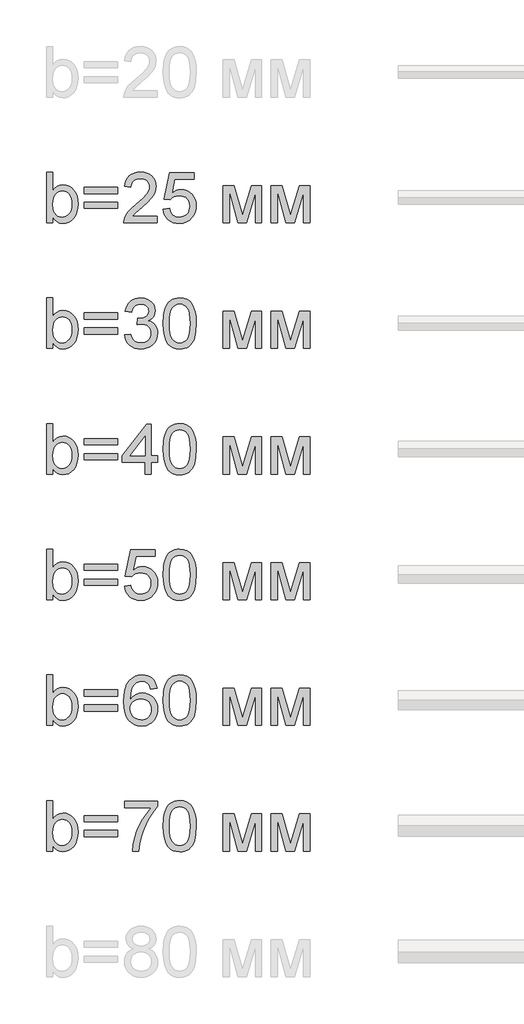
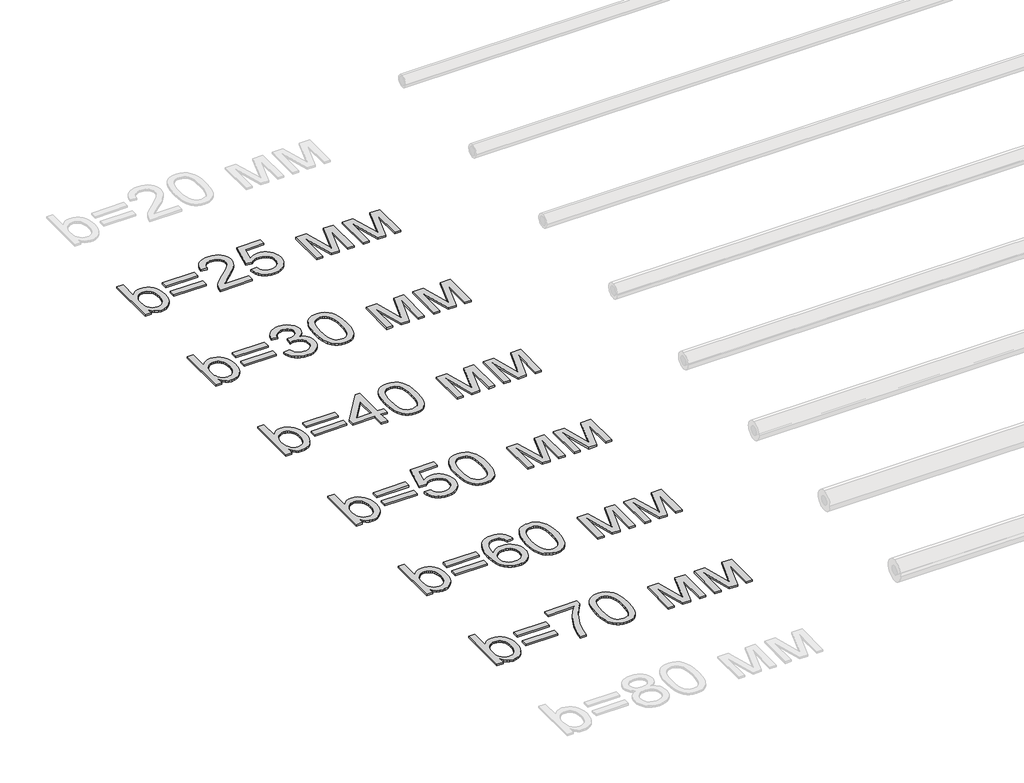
# One storey, part 73 of 86: 6 proxies.
"""IFC4 building model written with IfcOpenShell, lengths in millimetres."""

from ifc_helpers import new_model, si_unit, origin, origin_with_axes, place, context, project, spatial, polyline, outline, extrude, element, save

model = new_model("IFC4")

# Units and contexts
model_context = context("Model", 3, world=origin())
ifc_project = project(units=[si_unit("LENGTHUNIT", "METRE", prefix="MILLI")], contexts=[model_context])

# Site, building, storey
site = spatial("IfcSite", under=ifc_project)
building = spatial("IfcBuilding", under=site)
storey = spatial("IfcBuildingStorey", under=building, Name="Уровень 1", Elevation=0.0)

# Proxies
placement = place(None, origin())
element("IfcBuildingElementProxy", 1, Name="Текст модели 1", ObjectType="Текст модели 1", at=placement, inside=storey, context=model_context, shape_type="SweptSolid", body=[
    extrude(outline(polyline([(23159.6307988, 87669.2937088), (23084.2885662, 87669.2937088), (23084.2885662, 88272.0315697), (23159.6307988, 88272.0315697), (23159.6307988, 88048.5064694), (23184.4076512, 88080.3742473), (23212.3850769, 88103.1369457), (23243.563076, 88116.7945648), (23277.9416484, 88121.3471045), (23316.7531989, 88117.2452202), (23353.4310339, 88104.9395675), (23385.8782258, 88085.2026984), (23411.9978475, 88058.8071653), (23432.4704805, 88026.0104854), (23447.9767066, 87987.0701762), (23457.7439736, 87943.6049185), (23460.9997292, 87897.233393), (23457.6290105, 87843.7249568), (23447.5168541, 87796.6544555), (23430.6632602, 87756.0218892), (23407.0682288, 87721.8272577), (23378.7459136, 87694.7235517), (23347.7104688, 87675.3637617), (23313.9618943, 87663.7478877), (23277.50019, 87659.8759297), (23241.9903805, 87664.8699278), (23210.5088787, 87679.8519221), (23183.0556848, 87704.8219125), (23159.6307988, 87739.7798991), (23159.6307988, 87669.2937088)]), holes=[polyline([(23159.6307988, 87893.7017259), (23164.7811467, 87830.8674811), (23171.2190816, 87807.065516), (23180.2321905, 87788.3403224), (23198.4883345, 87765.0993774), (23219.7059286, 87748.4987024), (23243.8849727, 87738.5382973), (23271.0254669, 87735.2181623), (23293.5582391, 87737.6645776), (23314.5091188, 87745.0038234), (23333.8781058, 87757.2358997), (23351.6652003, 87774.3608066), (23366.5368299, 87796.3325588), (23377.1594225, 87823.105171), (23383.5329781, 87854.6786432), (23385.6574966, 87891.0529755), (23383.6203501, 87928.1170865), (23377.5089104, 87959.9940614), (23367.3231777, 87986.6839001), (23353.0631519, 88008.1866028), (23335.9152524, 88024.7320955), (23317.0658986, 88036.5503046), (23296.5150907, 88043.64123), (23274.2628285, 88046.0048719), (23251.7300563, 88043.5584566), (23230.7791767, 88036.2192108), (23211.4101896, 88023.9871344), (23193.6230951, 88006.8622276), (23178.7514655, 87985.1112046), (23168.1288729, 87959.00078), (23161.7553173, 87928.5309538), (23159.6307988, 87893.7017259)])]), origin_with_axes(), (0.0, 0.0, 1.0), 20.0),
    extrude(outline(polyline([(23931.8886831, 88017.7515346), (23536.3419619, 88017.7515346), (23536.3419619, 88093.0937672), (23931.8886831, 88093.0937672), (23931.8886831, 88017.7515346)])), origin_with_axes(), (0.0, 0.0, 1.0), 20.0),
    extrude(outline(polyline([(23931.8886831, 87838.8137322), (23536.3419619, 87838.8137322), (23536.3419619, 87914.1559648), (23931.8886831, 87914.1559648), (23931.8886831, 87838.8137322)])), origin_with_axes(), (0.0, 0.0, 1.0), 20.0),
    extrude(outline(polyline([(24402.7776369, 87744.6359414), (24402.7776369, 87669.2937088), (24007.2309157, 87669.2937088), (24008.8863847, 87695.8180007), (24015.3243196, 87721.2386465), (24033.9023603, 87761.8344247), (24061.0888398, 87801.2161923), (24100.4154251, 87842.4373698), (24155.4137833, 87888.5513779), (24236.7157043, 87960.7666136), (24285.4968568, 88014.0727147), (24299.724693, 88035.8513288), (24309.8874331, 88057.3356373), (24315.9850772, 88078.5256402), (24318.0176252, 88099.4213376), (24316.1000403, 88119.0800317), (24310.3472856, 88137.1476362), (24300.7593611, 88153.624151), (24287.3362668, 88168.5095763), (24270.8229638, 88180.8382216), (24251.964413, 88189.6443969), (24230.7606145, 88194.928102), (24207.2115683, 88196.6893371), (24182.4025262, 88194.9694888), (24160.2146434, 88189.8099438), (24140.6479198, 88181.2107021), (24123.7023554, 88169.1717638), (24109.9941525, 88154.0977991), (24100.1395136, 88136.3934781), (24094.1384385, 88116.0588008), (24091.9909274, 88093.0937672), (24016.6486948, 88102.5115463), (24023.1280164, 88141.4058703), (24034.9140358, 88175.3889696), (24052.006753, 88204.4608442), (24074.406168, 88228.6214943), (24101.597246, 88247.6134023), (24133.0649521, 88261.1790508), (24168.8092865, 88269.31844), (24208.830249, 88272.0315697), (24249.2098965, 88269.0149373), (24285.1473689, 88259.9650403), (24316.6426663, 88244.8818785), (24343.6957885, 88223.7654519), (24365.4238188, 88198.1792592), (24380.9438405, 88169.6867986), (24390.2558535, 88138.2880704), (24393.3598578, 88103.9830743), (24390.0121317, 88067.9490329), (24379.9689532, 88032.5403908), (24362.1450705, 87996.5247435), (24335.4552318, 87958.6696862), (24292.909679, 87913.4753831), (24227.5186544, 87855.4419984), (24140.8456563, 87782.9692453), (24106.85336, 87744.6359414), (24402.7776369, 87744.6359414)])), origin_with_axes(), (0.0, 0.0, 1.0), 20.0),
    extrude(outline(polyline([(24478.1198695, 87829.3959531), (24553.4621021, 87838.8137322), (24559.0906966, 87814.5933013), (24567.2944651, 87793.5826409), (24578.0734076, 87775.7817508), (24591.427524, 87761.1906312), (24607.3292233, 87749.8276761), (24625.7509142, 87741.7112795), (24646.6925967, 87736.8414416), (24670.154271, 87735.2181623), (24698.8490666, 87737.4760381), (24724.1593479, 87744.2496653), (24746.0851148, 87755.539044), (24764.6263674, 87771.3441743), (24779.3692383, 87790.8833067), (24789.8998604, 87813.3746922), (24796.2182337, 87838.8183307), (24798.3243581, 87867.2142222), (24796.3515909, 87894.0512138), (24790.4332893, 87917.9083611), (24780.5694533, 87938.7856644), (24766.7600829, 87956.6831234), (24748.9591929, 87971.0397183), (24727.1207979, 87981.2944289), (24701.2448981, 87987.4472553), (24671.3314934, 87989.4981974), (24634.7824172, 87986.2240476), (24605.1863106, 87976.4015984), (24581.5498925, 87961.3552248), (24562.8798812, 87942.409302), (24487.5376486, 87951.8270811), (24553.4621021, 88262.6137906), (24845.4132535, 88262.6137906), (24845.4132535, 88187.271558), (24614.3833605, 88187.271558), (24582.1568977, 88021.2832018), (24608.7455689, 88040.3394891), (24635.9780336, 88053.951123), (24663.8542918, 88062.1181032), (24692.3743435, 88064.84043), (24729.065974, 88061.4651127), (24762.7685633, 88051.3391608), (24793.4821113, 88034.4625743), (24821.2066182, 88010.8353531), (24844.1578562, 87981.9014342), (24860.5515976, 87949.1047543), (24870.3878424, 87912.4453135), (24873.6665907, 87871.9231117), (24870.7143377, 87832.8908321), (24861.8575787, 87796.5808791), (24847.0963136, 87762.993253), (24826.4305425, 87732.1279536), (24795.1237848, 87700.5176931), (24758.5931026, 87677.9389357), (24716.8384962, 87664.3916812), (24669.8599654, 87659.8759297), (24630.979437, 87662.777599), (24595.8605021, 87671.4826067), (24564.5031605, 87685.9909529), (24536.9074123, 87706.3026375), (24513.9469773, 87731.4059852), (24496.4955752, 87760.2893203), (24484.5532059, 87792.952643), (24478.1198695, 87829.3959531)])), origin_with_axes(), (0.0, 0.0, 1.0), 20.0),
    extrude(outline(polyline([(25193.8710793, 88111.9293254), (25323.5126944, 88111.9293254), (25423.4294443, 87757.5853876), (25531.1452925, 88111.9293254), (25655.3422541, 88111.9293254), (25655.3422541, 87669.2937088), (25580.0000215, 87669.2937088), (25580.0000215, 88025.6977857), (25471.6955621, 87669.2937088), (25372.8088818, 87669.2937088), (25269.2133119, 88042.7675103), (25269.2133119, 87669.2937088), (25193.8710793, 87669.2937088), (25193.8710793, 88111.9293254)])), origin_with_axes(), (0.0, 0.0, 1.0), 20.0),
    extrude(outline(polyline([(25768.355603, 88111.9293254), (25897.9972181, 88111.9293254), (25997.913968, 87757.5853876), (26105.6298162, 88111.9293254), (26229.8267777, 88111.9293254), (26229.8267777, 87669.2937088), (26154.4845451, 87669.2937088), (26154.4845451, 88025.6977857), (26046.1800857, 87669.2937088), (25947.2934054, 87669.2937088), (25843.6978356, 88042.7675103), (25843.6978356, 87669.2937088), (25768.355603, 87669.2937088), (25768.355603, 88111.9293254)])), origin_with_axes(), (0.0, 0.0, 1.0), 20.0),
])
element("IfcBuildingElementProxy", 2, Name="Текст модели 1", ObjectType="Текст модели 1", at=placement, inside=storey, context=model_context, shape_type="SweptSolid", body=[
    extrude(outline(polyline([(23159.6307988, 86169.2937088), (23084.2885662, 86169.2937088), (23084.2885662, 86772.0315697), (23159.6307988, 86772.0315697), (23159.6307988, 86548.5064694), (23184.4076512, 86580.3742473), (23212.3850769, 86603.1369457), (23243.563076, 86616.7945648), (23277.9416484, 86621.3471045), (23316.7531989, 86617.2452202), (23353.4310339, 86604.9395675), (23385.8782258, 86585.2026984), (23411.9978475, 86558.8071653), (23432.4704805, 86526.0104854), (23447.9767066, 86487.0701762), (23457.7439736, 86443.6049185), (23460.9997292, 86397.233393), (23457.6290105, 86343.7249568), (23447.5168541, 86296.6544555), (23430.6632602, 86256.0218892), (23407.0682288, 86221.8272577), (23378.7459136, 86194.7235517), (23347.7104688, 86175.3637617), (23313.9618943, 86163.7478877), (23277.50019, 86159.8759297), (23241.9903805, 86164.8699278), (23210.5088787, 86179.8519221), (23183.0556848, 86204.8219125), (23159.6307988, 86239.7798991), (23159.6307988, 86169.2937088)]), holes=[polyline([(23159.6307988, 86393.7017259), (23164.7811467, 86330.8674811), (23171.2190816, 86307.065516), (23180.2321905, 86288.3403224), (23198.4883345, 86265.0993774), (23219.7059286, 86248.4987024), (23243.8849727, 86238.5382973), (23271.0254669, 86235.2181623), (23293.5582391, 86237.6645776), (23314.5091188, 86245.0038234), (23333.8781058, 86257.2358997), (23351.6652003, 86274.3608066), (23366.5368299, 86296.3325588), (23377.1594225, 86323.105171), (23383.5329781, 86354.6786432), (23385.6574966, 86391.0529755), (23383.6203501, 86428.1170865), (23377.5089104, 86459.9940614), (23367.3231777, 86486.6839001), (23353.0631519, 86508.1866028), (23335.9152524, 86524.7320955), (23317.0658986, 86536.5503046), (23296.5150907, 86543.64123), (23274.2628285, 86546.0048719), (23251.7300563, 86543.5584566), (23230.7791767, 86536.2192108), (23211.4101896, 86523.9871344), (23193.6230951, 86506.8622276), (23178.7514655, 86485.1112046), (23168.1288729, 86459.00078), (23161.7553173, 86428.5309538), (23159.6307988, 86393.7017259)])]), origin_with_axes(), (0.0, 0.0, 1.0), 20.0),
    extrude(outline(polyline([(23931.8886831, 86517.7515346), (23536.3419619, 86517.7515346), (23536.3419619, 86593.0937672), (23931.8886831, 86593.0937672), (23931.8886831, 86517.7515346)])), origin_with_axes(), (0.0, 0.0, 1.0), 20.0),
    extrude(outline(polyline([(23931.8886831, 86338.8137322), (23536.3419619, 86338.8137322), (23536.3419619, 86414.1559648), (23931.8886831, 86414.1559648), (23931.8886831, 86338.8137322)])), origin_with_axes(), (0.0, 0.0, 1.0), 20.0),
    extrude(outline(polyline([(24016.6486948, 86329.3959531), (24091.9909274, 86338.8137322), (24108.8583168, 86291.4673194), (24120.230469, 86273.5606633), (24133.5615928, 86259.498374), (24149.1551909, 86248.8757814), (24167.3147659, 86241.2882153), (24188.0403178, 86236.7356756), (24211.3318466, 86235.2181623), (24238.6286906, 86237.3058927), (24262.9824787, 86243.5690836), (24284.3932108, 86254.0077352), (24302.860887, 86268.6218475), (24317.7325167, 86286.3169715), (24328.3551093, 86305.9986582), (24334.7286648, 86327.6669077), (24336.8531834, 86351.32172), (24334.7470589, 86373.8498937), (24328.4286857, 86394.3455193), (24317.8980636, 86412.808597), (24303.1551926, 86429.2391266), (24285.165763, 86442.7266002), (24264.8954651, 86452.36051), (24242.3442988, 86458.1408558), (24217.5122641, 86460.0676378), (24193.710299, 86458.0074986), (24164.6844096, 86451.8270811), (24173.0721191, 86527.1693137), (24185.1386485, 86526.2863969), (24230.2777694, 86531.6942622), (24270.6344242, 86547.9178582), (24287.2442963, 86560.1867228), (24299.1084907, 86575.3618551), (24306.2270073, 86593.4432551), (24308.5998461, 86614.430923), (24306.8799978, 86631.4684579), (24301.7204528, 86646.9700854), (24293.1212112, 86660.9358057), (24281.0822729, 86673.3656186), (24266.3302049, 86683.5697454), (24249.5915741, 86690.8584075), (24210.1546242, 86696.6893371), (24189.4980502, 86695.2178091), (24170.6440979, 86690.8032252), (24153.5927675, 86683.4455853), (24138.3440588, 86673.1448894), (24125.2750509, 86659.9011376), (24114.7628229, 86643.7143298), (24106.8073747, 86624.584466), (24101.4087064, 86602.5115463), (24026.0664738, 86611.9293254), (24034.9968093, 86647.8989875), (24048.2497581, 86679.5828243), (24065.8253205, 86706.9808359), (24087.7234962, 86730.0930222), (24113.2545067, 86748.4411368), (24141.7285731, 86761.5469328), (24173.1456955, 86769.4104105), (24207.5058739, 86772.0315697), (24254.8706807, 86766.8628277), (24298.3727267, 86751.3566016), (24335.0505616, 86726.8924489), (24361.9427354, 86694.8499271), (24378.4422429, 86657.9329689), (24383.9420787, 86618.8455069), (24378.7181544, 86582.4251894), (24363.0463814, 86549.3893862), (24337.147489, 86521.2464136), (24301.2422062, 86499.5045877), (24326.3501524, 86491.6503071), (24348.404678, 86480.4483003), (24367.4057831, 86465.8985674), (24383.3534676, 86448.0011083), (24395.97182, 86427.1973815), (24404.9849289, 86403.9288453), (24410.3927942, 86378.1954998), (24412.195416, 86349.9973448), (24408.5901724, 86311.7744055), (24397.7744418, 86276.5680986), (24379.748224, 86244.378424), (24354.5115191, 86215.2053818), (24323.7657814, 86190.9987465), (24289.212465, 86173.7082927), (24250.8515699, 86163.3340205), (24208.6830962, 86159.8759297), (24170.5705215, 86162.8281827), (24135.8424612, 86171.6849418), (24104.4989152, 86186.4462068), (24076.5398836, 86207.1119779), (24053.0966034, 86232.4682444), (24035.3003119, 86261.3009958), (24023.151009, 86293.610232), (24016.6486948, 86329.3959531)])), origin_with_axes(), (0.0, 0.0, 1.0), 20.0),
    extrude(outline(polyline([(24478.1198695, 86465.8065969), (24483.6564935, 86562.2836501), (24490.5772736, 86603.1967265), (24500.2663656, 86639.2261694), (24512.682383, 86670.6662845), (24527.7839389, 86697.8113772), (24545.5710333, 86720.6614476), (24566.0436664, 86739.2164957), (24589.2708158, 86753.5730906), (24615.3214596, 86763.8278012), (24644.1955977, 86769.9806276), (24675.8932301, 86772.0315697), (24722.3199379, 86767.1755274), (24763.8906034, 86752.6074004), (24798.6554519, 86728.8974058), (24824.664709, 86696.6157607), (24844.3096075, 86656.0383766), (24859.9813805, 86607.4411651), (24870.2452882, 86545.7289604), (24873.6665907, 86465.8065969), (24868.185149, 86369.8813667), (24861.3333468, 86329.106246), (24851.7408238, 86293.1227884), (24839.4213755, 86261.6688778), (24824.3887975, 86234.4823983), (24806.6430897, 86211.56335), (24786.1842523, 86192.9117329), (24762.9295116, 86178.458569), (24736.7960944, 86168.1348805), (24707.7840006, 86161.9406674), (24675.8932301, 86159.8759297), (24634.3961411, 86163.4627792), (24597.6079415, 86174.2233275), (24565.5286316, 86192.1575748), (24538.1582111, 86217.265521), (24511.8914367, 86262.6529621), (24493.1294549, 86319.2056218), (24481.8722659, 86386.9235001), (24478.1198695, 86465.8065969)]), holes=[polyline([(24553.4621021, 86465.9537497), (24555.6693941, 86400.456959), (24562.29127, 86347.440565), (24573.3277299, 86306.9045676), (24588.7787737, 86278.848967), (24607.467179, 86259.7604899), (24628.2157235, 86246.1258635), (24651.0244072, 86237.9450876), (24675.8932301, 86235.2181623), (24700.762053, 86237.9542847), (24723.5707367, 86246.1626517), (24744.3192812, 86259.8432634), (24763.0076866, 86278.9961198), (24778.4587304, 86307.0977057), (24789.4951902, 86347.624506), (24796.1170661, 86400.5765206), (24798.3243581, 86465.9537497), (24796.1906425, 86529.7168965), (24789.7894958, 86581.79979), (24779.120918, 86622.2024301), (24764.184909, 86650.9248169), (24745.8092033, 86670.9467945), (24724.8215355, 86685.248207), (24701.2219055, 86693.8290546), (24675.0103133, 86696.6893371), (24650.2702492, 86694.1693454), (24627.8478415, 86686.6093704), (24607.7430905, 86674.0094121), (24589.955996, 86656.3694704), (24573.9899175, 86625.0995008), (24562.5855756, 86582.9402242), (24555.7429705, 86529.8916405), (24553.4621021, 86465.9537497)])]), origin_with_axes(), (0.0, 0.0, 1.0), 20.0),
    extrude(outline(polyline([(25193.8710793, 86611.9293254), (25323.5126944, 86611.9293254), (25423.4294443, 86257.5853876), (25531.1452925, 86611.9293254), (25655.3422541, 86611.9293254), (25655.3422541, 86169.2937088), (25580.0000215, 86169.2937088), (25580.0000215, 86525.6977857), (25471.6955621, 86169.2937088), (25372.8088818, 86169.2937088), (25269.2133119, 86542.7675103), (25269.2133119, 86169.2937088), (25193.8710793, 86169.2937088), (25193.8710793, 86611.9293254)])), origin_with_axes(), (0.0, 0.0, 1.0), 20.0),
    extrude(outline(polyline([(25768.355603, 86611.9293254), (25897.9972181, 86611.9293254), (25997.913968, 86257.5853876), (26105.6298162, 86611.9293254), (26229.8267777, 86611.9293254), (26229.8267777, 86169.2937088), (26154.4845451, 86169.2937088), (26154.4845451, 86525.6977857), (26046.1800857, 86169.2937088), (25947.2934054, 86169.2937088), (25843.6978356, 86542.7675103), (25843.6978356, 86169.2937088), (25768.355603, 86169.2937088), (25768.355603, 86611.9293254)])), origin_with_axes(), (0.0, 0.0, 1.0), 20.0),
])
element("IfcBuildingElementProxy", 3, Name="Текст модели 1", ObjectType="Текст модели 1", at=placement, inside=storey, context=model_context, shape_type="SweptSolid", body=[
    extrude(outline(polyline([(23159.6307988, 84669.2937088), (23084.2885662, 84669.2937088), (23084.2885662, 85272.0315697), (23159.6307988, 85272.0315697), (23159.6307988, 85048.5064694), (23184.4076512, 85080.3742473), (23212.3850769, 85103.1369457), (23243.563076, 85116.7945648), (23277.9416484, 85121.3471045), (23316.7531989, 85117.2452202), (23353.4310339, 85104.9395675), (23385.8782258, 85085.2026984), (23411.9978475, 85058.8071653), (23432.4704805, 85026.0104854), (23447.9767066, 84987.0701762), (23457.7439736, 84943.6049185), (23460.9997292, 84897.233393), (23457.6290105, 84843.7249568), (23447.5168541, 84796.6544555), (23430.6632602, 84756.0218892), (23407.0682288, 84721.8272577), (23378.7459136, 84694.7235517), (23347.7104688, 84675.3637617), (23313.9618943, 84663.7478877), (23277.50019, 84659.8759297), (23241.9903805, 84664.8699278), (23210.5088787, 84679.8519221), (23183.0556848, 84704.8219125), (23159.6307988, 84739.7798991), (23159.6307988, 84669.2937088)]), holes=[polyline([(23159.6307988, 84893.7017259), (23164.7811467, 84830.8674811), (23171.2190816, 84807.065516), (23180.2321905, 84788.3403224), (23198.4883345, 84765.0993774), (23219.7059286, 84748.4987024), (23243.8849727, 84738.5382973), (23271.0254669, 84735.2181623), (23293.5582391, 84737.6645776), (23314.5091188, 84745.0038234), (23333.8781058, 84757.2358997), (23351.6652003, 84774.3608066), (23366.5368299, 84796.3325588), (23377.1594225, 84823.105171), (23383.5329781, 84854.6786432), (23385.6574966, 84891.0529755), (23383.6203501, 84928.1170865), (23377.5089104, 84959.9940614), (23367.3231777, 84986.6839001), (23353.0631519, 85008.1866028), (23335.9152524, 85024.7320955), (23317.0658986, 85036.5503046), (23296.5150907, 85043.64123), (23274.2628285, 85046.0048719), (23251.7300563, 85043.5584566), (23230.7791767, 85036.2192108), (23211.4101896, 85023.9871344), (23193.6230951, 85006.8622276), (23178.7514655, 84985.1112046), (23168.1288729, 84959.00078), (23161.7553173, 84928.5309538), (23159.6307988, 84893.7017259)])]), origin_with_axes(), (0.0, 0.0, 1.0), 20.0),
    extrude(outline(polyline([(23931.8886831, 85017.7515346), (23536.3419619, 85017.7515346), (23536.3419619, 85093.0937672), (23931.8886831, 85093.0937672), (23931.8886831, 85017.7515346)])), origin_with_axes(), (0.0, 0.0, 1.0), 20.0),
    extrude(outline(polyline([(23931.8886831, 84838.8137322), (23536.3419619, 84838.8137322), (23536.3419619, 84914.1559648), (23931.8886831, 84914.1559648), (23931.8886831, 84838.8137322)])), origin_with_axes(), (0.0, 0.0, 1.0), 20.0),
    extrude(outline(polyline([(24261.5109507, 84669.2937088), (24261.5109507, 84810.5603949), (23988.3953575, 84810.5603949), (23988.3953575, 84885.9026276), (24280.3465089, 85262.6137906), (24336.8531834, 85262.6137906), (24336.8531834, 84885.9026276), (24412.195416, 84885.9026276), (24412.195416, 84810.5603949), (24336.8531834, 84810.5603949), (24336.8531834, 84669.2937088), (24261.5109507, 84669.2937088)]), holes=[polyline([(24261.5109507, 84885.9026276), (24261.5109507, 85118.6983541), (24081.1016203, 84885.9026276), (24261.5109507, 84885.9026276)])]), origin_with_axes(), (0.0, 0.0, 1.0), 20.0),
    extrude(outline(polyline([(24478.1198695, 84965.8065969), (24483.6564935, 85062.2836501), (24490.5772736, 85103.1967265), (24500.2663656, 85139.2261694), (24512.682383, 85170.6662845), (24527.7839389, 85197.8113772), (24545.5710333, 85220.6614476), (24566.0436664, 85239.2164957), (24589.2708158, 85253.5730906), (24615.3214596, 85263.8278012), (24644.1955977, 85269.9806276), (24675.8932301, 85272.0315697), (24722.3199379, 85267.1755274), (24763.8906034, 85252.6074004), (24798.6554519, 85228.8974058), (24824.664709, 85196.6157607), (24844.3096075, 85156.0383766), (24859.9813805, 85107.4411651), (24870.2452882, 85045.7289604), (24873.6665907, 84965.8065969), (24868.185149, 84869.8813667), (24861.3333468, 84829.106246), (24851.7408238, 84793.1227884), (24839.4213755, 84761.6688778), (24824.3887975, 84734.4823983), (24806.6430897, 84711.56335), (24786.1842523, 84692.9117329), (24762.9295116, 84678.458569), (24736.7960944, 84668.1348805), (24707.7840006, 84661.9406674), (24675.8932301, 84659.8759297), (24634.3961411, 84663.4627792), (24597.6079415, 84674.2233275), (24565.5286316, 84692.1575748), (24538.1582111, 84717.265521), (24511.8914367, 84762.6529621), (24493.1294549, 84819.2056218), (24481.8722659, 84886.9235001), (24478.1198695, 84965.8065969)]), holes=[polyline([(24553.4621021, 84965.9537497), (24555.6693941, 84900.456959), (24562.29127, 84847.440565), (24573.3277299, 84806.9045676), (24588.7787737, 84778.848967), (24607.467179, 84759.7604899), (24628.2157235, 84746.1258635), (24651.0244072, 84737.9450876), (24675.8932301, 84735.2181623), (24700.762053, 84737.9542847), (24723.5707367, 84746.1626517), (24744.3192812, 84759.8432634), (24763.0076866, 84778.9961198), (24778.4587304, 84807.0977057), (24789.4951902, 84847.624506), (24796.1170661, 84900.5765206), (24798.3243581, 84965.9537497), (24796.1906425, 85029.7168965), (24789.7894958, 85081.79979), (24779.120918, 85122.2024301), (24764.184909, 85150.9248169), (24745.8092033, 85170.9467945), (24724.8215355, 85185.248207), (24701.2219055, 85193.8290546), (24675.0103133, 85196.6893371), (24650.2702492, 85194.1693454), (24627.8478415, 85186.6093704), (24607.7430905, 85174.0094121), (24589.955996, 85156.3694704), (24573.9899175, 85125.0995008), (24562.5855756, 85082.9402242), (24555.7429705, 85029.8916405), (24553.4621021, 84965.9537497)])]), origin_with_axes(), (0.0, 0.0, 1.0), 20.0),
    extrude(outline(polyline([(25193.8710793, 85111.9293254), (25323.5126944, 85111.9293254), (25423.4294443, 84757.5853876), (25531.1452925, 85111.9293254), (25655.3422541, 85111.9293254), (25655.3422541, 84669.2937088), (25580.0000215, 84669.2937088), (25580.0000215, 85025.6977857), (25471.6955621, 84669.2937088), (25372.8088818, 84669.2937088), (25269.2133119, 85042.7675103), (25269.2133119, 84669.2937088), (25193.8710793, 84669.2937088), (25193.8710793, 85111.9293254)])), origin_with_axes(), (0.0, 0.0, 1.0), 20.0),
    extrude(outline(polyline([(25768.355603, 85111.9293254), (25897.9972181, 85111.9293254), (25997.913968, 84757.5853876), (26105.6298162, 85111.9293254), (26229.8267777, 85111.9293254), (26229.8267777, 84669.2937088), (26154.4845451, 84669.2937088), (26154.4845451, 85025.6977857), (26046.1800857, 84669.2937088), (25947.2934054, 84669.2937088), (25843.6978356, 85042.7675103), (25843.6978356, 84669.2937088), (25768.355603, 84669.2937088), (25768.355603, 85111.9293254)])), origin_with_axes(), (0.0, 0.0, 1.0), 20.0),
])
element("IfcBuildingElementProxy", 4, Name="Текст модели 1", ObjectType="Текст модели 1", at=placement, inside=storey, context=model_context, shape_type="SweptSolid", body=[
    extrude(outline(polyline([(23159.6307988, 83169.2937088), (23084.2885662, 83169.2937088), (23084.2885662, 83772.0315697), (23159.6307988, 83772.0315697), (23159.6307988, 83548.5064694), (23184.4076512, 83580.3742473), (23212.3850769, 83603.1369457), (23243.563076, 83616.7945648), (23277.9416484, 83621.3471045), (23316.7531989, 83617.2452202), (23353.4310339, 83604.9395675), (23385.8782258, 83585.2026984), (23411.9978475, 83558.8071653), (23432.4704805, 83526.0104854), (23447.9767066, 83487.0701762), (23457.7439736, 83443.6049185), (23460.9997292, 83397.233393), (23457.6290105, 83343.7249568), (23447.5168541, 83296.6544555), (23430.6632602, 83256.0218892), (23407.0682288, 83221.8272577), (23378.7459136, 83194.7235517), (23347.7104688, 83175.3637617), (23313.9618943, 83163.7478877), (23277.50019, 83159.8759297), (23241.9903805, 83164.8699278), (23210.5088787, 83179.8519221), (23183.0556848, 83204.8219125), (23159.6307988, 83239.7798991), (23159.6307988, 83169.2937088)]), holes=[polyline([(23159.6307988, 83393.7017259), (23164.7811467, 83330.8674811), (23171.2190816, 83307.065516), (23180.2321905, 83288.3403224), (23198.4883345, 83265.0993774), (23219.7059286, 83248.4987024), (23243.8849727, 83238.5382973), (23271.0254669, 83235.2181623), (23293.5582391, 83237.6645776), (23314.5091188, 83245.0038234), (23333.8781058, 83257.2358997), (23351.6652003, 83274.3608066), (23366.5368299, 83296.3325588), (23377.1594225, 83323.105171), (23383.5329781, 83354.6786432), (23385.6574966, 83391.0529755), (23383.6203501, 83428.1170865), (23377.5089104, 83459.9940614), (23367.3231777, 83486.6839001), (23353.0631519, 83508.1866028), (23335.9152524, 83524.7320955), (23317.0658986, 83536.5503046), (23296.5150907, 83543.64123), (23274.2628285, 83546.0048719), (23251.7300563, 83543.5584566), (23230.7791767, 83536.2192108), (23211.4101896, 83523.9871344), (23193.6230951, 83506.8622276), (23178.7514655, 83485.1112046), (23168.1288729, 83459.00078), (23161.7553173, 83428.5309538), (23159.6307988, 83393.7017259)])]), origin_with_axes(), (0.0, 0.0, 1.0), 20.0),
    extrude(outline(polyline([(23931.8886831, 83517.7515346), (23536.3419619, 83517.7515346), (23536.3419619, 83593.0937672), (23931.8886831, 83593.0937672), (23931.8886831, 83517.7515346)])), origin_with_axes(), (0.0, 0.0, 1.0), 20.0),
    extrude(outline(polyline([(23931.8886831, 83338.8137322), (23536.3419619, 83338.8137322), (23536.3419619, 83414.1559648), (23931.8886831, 83414.1559648), (23931.8886831, 83338.8137322)])), origin_with_axes(), (0.0, 0.0, 1.0), 20.0),
    extrude(outline(polyline([(24016.6486948, 83329.3959531), (24091.9909274, 83338.8137322), (24097.6195219, 83314.5933013), (24105.8232904, 83293.5826409), (24116.6022328, 83275.7817508), (24129.9563493, 83261.1906312), (24145.8580485, 83249.8276761), (24164.2797394, 83241.7112795), (24185.221422, 83236.8414416), (24208.6830962, 83235.2181623), (24237.3778919, 83237.4760381), (24262.6881731, 83244.2496653), (24284.61394, 83255.539044), (24303.1551926, 83271.3441743), (24317.8980636, 83290.8833067), (24328.4286857, 83313.3746922), (24334.7470589, 83338.8183307), (24336.8531834, 83367.2142222), (24334.8804162, 83394.0512138), (24328.9621146, 83417.9083611), (24319.0982786, 83438.7856644), (24305.2889082, 83456.6831234), (24287.4880181, 83471.0397183), (24265.6496232, 83481.2944289), (24239.7737234, 83487.4472553), (24209.8603186, 83489.4981974), (24173.3112424, 83486.2240476), (24143.7151359, 83476.4015984), (24120.0787177, 83461.3552248), (24101.4087064, 83442.409302), (24026.0664738, 83451.8270811), (24091.9909274, 83762.6137906), (24383.9420787, 83762.6137906), (24383.9420787, 83687.271558), (24152.9121858, 83687.271558), (24120.685723, 83521.2832018), (24147.2743942, 83540.3394891), (24174.5068589, 83553.951123), (24202.3831171, 83562.1181032), (24230.9031687, 83564.84043), (24267.5947992, 83561.4651127), (24301.2973885, 83551.3391608), (24332.0109366, 83534.4625743), (24359.7354435, 83510.8353531), (24382.6866814, 83481.9014342), (24399.0804228, 83449.1047543), (24408.9166677, 83412.4453135), (24412.195416, 83371.9231117), (24409.243163, 83332.8908321), (24400.3864039, 83296.5808791), (24385.6251389, 83262.993253), (24364.9593678, 83232.1279536), (24333.65261, 83200.5176931), (24297.1219279, 83177.9389357), (24255.3673214, 83164.3916812), (24208.3887906, 83159.8759297), (24169.5082623, 83162.777599), (24134.3893273, 83171.4826067), (24103.0319858, 83185.9909529), (24075.4362376, 83206.3026375), (24052.4758026, 83231.4059852), (24035.0244004, 83260.2893203), (24023.0820311, 83292.952643), (24016.6486948, 83329.3959531)])), origin_with_axes(), (0.0, 0.0, 1.0), 20.0),
    extrude(outline(polyline([(24478.1198695, 83465.8065969), (24483.6564935, 83562.2836501), (24490.5772736, 83603.1967265), (24500.2663656, 83639.2261694), (24512.682383, 83670.6662845), (24527.7839389, 83697.8113772), (24545.5710333, 83720.6614476), (24566.0436664, 83739.2164957), (24589.2708158, 83753.5730906), (24615.3214596, 83763.8278012), (24644.1955977, 83769.9806276), (24675.8932301, 83772.0315697), (24722.3199379, 83767.1755274), (24763.8906034, 83752.6074004), (24798.6554519, 83728.8974058), (24824.664709, 83696.6157607), (24844.3096075, 83656.0383766), (24859.9813805, 83607.4411651), (24870.2452882, 83545.7289604), (24873.6665907, 83465.8065969), (24868.185149, 83369.8813667), (24861.3333468, 83329.106246), (24851.7408238, 83293.1227884), (24839.4213755, 83261.6688778), (24824.3887975, 83234.4823983), (24806.6430897, 83211.56335), (24786.1842523, 83192.9117329), (24762.9295116, 83178.458569), (24736.7960944, 83168.1348805), (24707.7840006, 83161.9406674), (24675.8932301, 83159.8759297), (24634.3961411, 83163.4627792), (24597.6079415, 83174.2233275), (24565.5286316, 83192.1575748), (24538.1582111, 83217.265521), (24511.8914367, 83262.6529621), (24493.1294549, 83319.2056218), (24481.8722659, 83386.9235001), (24478.1198695, 83465.8065969)]), holes=[polyline([(24553.4621021, 83465.9537497), (24555.6693941, 83400.456959), (24562.29127, 83347.440565), (24573.3277299, 83306.9045676), (24588.7787737, 83278.848967), (24607.467179, 83259.7604899), (24628.2157235, 83246.1258635), (24651.0244072, 83237.9450876), (24675.8932301, 83235.2181623), (24700.762053, 83237.9542847), (24723.5707367, 83246.1626517), (24744.3192812, 83259.8432634), (24763.0076866, 83278.9961198), (24778.4587304, 83307.0977057), (24789.4951902, 83347.624506), (24796.1170661, 83400.5765206), (24798.3243581, 83465.9537497), (24796.1906425, 83529.7168965), (24789.7894958, 83581.79979), (24779.120918, 83622.2024301), (24764.184909, 83650.9248169), (24745.8092033, 83670.9467945), (24724.8215355, 83685.248207), (24701.2219055, 83693.8290546), (24675.0103133, 83696.6893371), (24650.2702492, 83694.1693454), (24627.8478415, 83686.6093704), (24607.7430905, 83674.0094121), (24589.955996, 83656.3694704), (24573.9899175, 83625.0995008), (24562.5855756, 83582.9402242), (24555.7429705, 83529.8916405), (24553.4621021, 83465.9537497)])]), origin_with_axes(), (0.0, 0.0, 1.0), 20.0),
    extrude(outline(polyline([(25193.8710793, 83611.9293254), (25323.5126944, 83611.9293254), (25423.4294443, 83257.5853876), (25531.1452925, 83611.9293254), (25655.3422541, 83611.9293254), (25655.3422541, 83169.2937088), (25580.0000215, 83169.2937088), (25580.0000215, 83525.6977857), (25471.6955621, 83169.2937088), (25372.8088818, 83169.2937088), (25269.2133119, 83542.7675103), (25269.2133119, 83169.2937088), (25193.8710793, 83169.2937088), (25193.8710793, 83611.9293254)])), origin_with_axes(), (0.0, 0.0, 1.0), 20.0),
    extrude(outline(polyline([(25768.355603, 83611.9293254), (25897.9972181, 83611.9293254), (25997.913968, 83257.5853876), (26105.6298162, 83611.9293254), (26229.8267777, 83611.9293254), (26229.8267777, 83169.2937088), (26154.4845451, 83169.2937088), (26154.4845451, 83525.6977857), (26046.1800857, 83169.2937088), (25947.2934054, 83169.2937088), (25843.6978356, 83542.7675103), (25843.6978356, 83169.2937088), (25768.355603, 83169.2937088), (25768.355603, 83611.9293254)])), origin_with_axes(), (0.0, 0.0, 1.0), 20.0),
])
element("IfcBuildingElementProxy", 5, Name="Текст модели 1", ObjectType="Текст модели 1", at=placement, inside=storey, context=model_context, shape_type="SweptSolid", body=[
    extrude(outline(polyline([(23159.6307988, 81669.2937088), (23084.2885662, 81669.2937088), (23084.2885662, 82272.0315697), (23159.6307988, 82272.0315697), (23159.6307988, 82048.5064694), (23184.4076512, 82080.3742473), (23212.3850769, 82103.1369457), (23243.563076, 82116.7945648), (23277.9416484, 82121.3471045), (23316.7531989, 82117.2452202), (23353.4310339, 82104.9395675), (23385.8782258, 82085.2026984), (23411.9978475, 82058.8071653), (23432.4704805, 82026.0104854), (23447.9767066, 81987.0701762), (23457.7439736, 81943.6049185), (23460.9997292, 81897.233393), (23457.6290105, 81843.7249568), (23447.5168541, 81796.6544555), (23430.6632602, 81756.0218892), (23407.0682288, 81721.8272577), (23378.7459136, 81694.7235517), (23347.7104688, 81675.3637617), (23313.9618943, 81663.7478877), (23277.50019, 81659.8759297), (23241.9903805, 81664.8699278), (23210.5088787, 81679.8519221), (23183.0556848, 81704.8219125), (23159.6307988, 81739.7798991), (23159.6307988, 81669.2937088)]), holes=[polyline([(23159.6307988, 81893.7017259), (23164.7811467, 81830.8674811), (23171.2190816, 81807.065516), (23180.2321905, 81788.3403224), (23198.4883345, 81765.0993774), (23219.7059286, 81748.4987024), (23243.8849727, 81738.5382973), (23271.0254669, 81735.2181623), (23293.5582391, 81737.6645776), (23314.5091188, 81745.0038234), (23333.8781058, 81757.2358997), (23351.6652003, 81774.3608066), (23366.5368299, 81796.3325588), (23377.1594225, 81823.105171), (23383.5329781, 81854.6786432), (23385.6574966, 81891.0529755), (23383.6203501, 81928.1170865), (23377.5089104, 81959.9940614), (23367.3231777, 81986.6839001), (23353.0631519, 82008.1866028), (23335.9152524, 82024.7320955), (23317.0658986, 82036.5503046), (23296.5150907, 82043.64123), (23274.2628285, 82046.0048719), (23251.7300563, 82043.5584566), (23230.7791767, 82036.2192108), (23211.4101896, 82023.9871344), (23193.6230951, 82006.8622276), (23178.7514655, 81985.1112046), (23168.1288729, 81959.00078), (23161.7553173, 81928.5309538), (23159.6307988, 81893.7017259)])]), origin_with_axes(), (0.0, 0.0, 1.0), 20.0),
    extrude(outline(polyline([(23931.8886831, 82017.7515346), (23536.3419619, 82017.7515346), (23536.3419619, 82093.0937672), (23931.8886831, 82093.0937672), (23931.8886831, 82017.7515346)])), origin_with_axes(), (0.0, 0.0, 1.0), 20.0),
    extrude(outline(polyline([(23931.8886831, 81838.8137322), (23536.3419619, 81838.8137322), (23536.3419619, 81914.1559648), (23931.8886831, 81914.1559648), (23931.8886831, 81838.8137322)])), origin_with_axes(), (0.0, 0.0, 1.0), 20.0),
    extrude(outline(polyline([(24402.7776369, 82111.9293254), (24327.4354043, 82102.5115463), (24315.2952984, 82139.8515688), (24298.8877615, 82165.3457911), (24282.6917566, 82179.0585925), (24264.7115241, 82188.8534506), (24244.9470639, 82194.7303655), (24223.398376, 82196.6893371), (24188.3760101, 82192.1276003), (24155.4137833, 82178.4423901), (24127.1052638, 82149.6188358), (24103.9838804, 82109.9427626), (24094.9477789, 82084.6370799), (24088.3672897, 82053.8223643), (24082.5731483, 81975.6658344), (24112.7946542, 82010.9273236), (24149.0126366, 82035.7777524), (24189.2037446, 82050.5114263), (24231.3446271, 82055.4226509), (24267.5442155, 82052.0657277), (24300.9479006, 82041.9949581), (24331.5556826, 82025.2103421), (24359.3675615, 82001.7118796), (24382.4797478, 81972.8975224), (24398.9884523, 81940.1652218), (24408.8936751, 81903.5149781), (24412.195416, 81862.9467911), (24410.6411145, 81835.4798016), (24405.9782103, 81808.9968965), (24398.2067031, 81783.4980757), (24387.3265931, 81758.9833392), (24373.7241563, 81736.3677936), (24357.7856689, 81716.5665452), (24339.5111308, 81699.5795941), (24318.900542, 81685.4069402), (24296.3953609, 81674.2371231), (24272.437046, 81666.2586823), (24247.0255972, 81661.4716179), (24220.1610145, 81659.8759297), (24175.2472214, 81664.1065727), (24134.6836329, 81676.7985015), (24098.470249, 81697.9517162), (24066.6070697, 81727.5662168), (24040.6300023, 81766.8928021), (24022.0749542, 81817.1822709), (24010.9419253, 81878.4346231), (24007.2309157, 81950.6498587), (24011.351194, 82031.6114888), (24023.7120291, 82100.7089245), (24044.3134208, 82157.9421659), (24057.7043254, 82182.1097138), (24073.1553692, 82203.311213), (24104.4161418, 82233.3763691), (24140.6617153, 82254.8514805), (24181.8920899, 82267.7365474), (24228.1072656, 82272.0315697), (24262.8077348, 82269.3736223), (24294.2156601, 82261.39978), (24322.3310416, 82248.110043), (24347.1538792, 82229.5044111), (24368.0127884, 82206.2082837), (24384.2363843, 82178.8470603), (24395.8246672, 82147.4207409), (24402.7776369, 82111.9293254)]), holes=[polyline([(24082.5731483, 81864.1240134), (24086.9325499, 81830.7387224), (24100.0107549, 81798.8617475), (24120.317841, 81771.4545389), (24146.3638863, 81751.4785465), (24177.7994027, 81739.2832584), (24214.2749026, 81735.2181623), (24240.4635021, 81737.3242868), (24263.9941542, 81743.64266), (24284.8668589, 81754.1732821), (24303.0816162, 81768.9161531), (24317.8566768, 81787.2734647), (24328.4102916, 81808.6474086), (24334.7424604, 81833.0379849), (24336.8531834, 81860.4451935), (24334.7700516, 81886.7809458), (24328.5206562, 81910.1644451), (24318.1049972, 81930.5956914), (24303.5230746, 81948.0746847), (24285.253135, 81962.0771932), (24263.773425, 81972.0789849), (24239.0839446, 81978.08006), (24211.1846938, 81980.0804183), (24185.3455822, 81978.08006), (24161.5390186, 81972.0789849), (24139.765003, 81962.0771932), (24120.0235354, 81948.0746847), (24103.638991, 81930.8256177), (24091.9357451, 81911.0841501), (24084.9137975, 81888.850282), (24082.5731483, 81864.1240134)])]), origin_with_axes(), (0.0, 0.0, 1.0), 20.0),
    extrude(outline(polyline([(24478.1198695, 81965.8065969), (24483.6564935, 82062.2836501), (24490.5772736, 82103.1967265), (24500.2663656, 82139.2261694), (24512.682383, 82170.6662845), (24527.7839389, 82197.8113772), (24545.5710333, 82220.6614476), (24566.0436664, 82239.2164957), (24589.2708158, 82253.5730906), (24615.3214596, 82263.8278012), (24644.1955977, 82269.9806276), (24675.8932301, 82272.0315697), (24722.3199379, 82267.1755274), (24763.8906034, 82252.6074004), (24798.6554519, 82228.8974058), (24824.664709, 82196.6157607), (24844.3096075, 82156.0383766), (24859.9813805, 82107.4411651), (24870.2452882, 82045.7289604), (24873.6665907, 81965.8065969), (24868.185149, 81869.8813667), (24861.3333468, 81829.106246), (24851.7408238, 81793.1227884), (24839.4213755, 81761.6688778), (24824.3887975, 81734.4823983), (24806.6430897, 81711.56335), (24786.1842523, 81692.9117329), (24762.9295116, 81678.458569), (24736.7960944, 81668.1348805), (24707.7840006, 81661.9406674), (24675.8932301, 81659.8759297), (24634.3961411, 81663.4627792), (24597.6079415, 81674.2233275), (24565.5286316, 81692.1575748), (24538.1582111, 81717.265521), (24511.8914367, 81762.6529621), (24493.1294549, 81819.2056218), (24481.8722659, 81886.9235001), (24478.1198695, 81965.8065969)]), holes=[polyline([(24553.4621021, 81965.9537497), (24555.6693941, 81900.456959), (24562.29127, 81847.440565), (24573.3277299, 81806.9045676), (24588.7787737, 81778.848967), (24607.467179, 81759.7604899), (24628.2157235, 81746.1258635), (24651.0244072, 81737.9450876), (24675.8932301, 81735.2181623), (24700.762053, 81737.9542847), (24723.5707367, 81746.1626517), (24744.3192812, 81759.8432634), (24763.0076866, 81778.9961198), (24778.4587304, 81807.0977057), (24789.4951902, 81847.624506), (24796.1170661, 81900.5765206), (24798.3243581, 81965.9537497), (24796.1906425, 82029.7168965), (24789.7894958, 82081.79979), (24779.120918, 82122.2024301), (24764.184909, 82150.9248169), (24745.8092033, 82170.9467945), (24724.8215355, 82185.248207), (24701.2219055, 82193.8290546), (24675.0103133, 82196.6893371), (24650.2702492, 82194.1693454), (24627.8478415, 82186.6093704), (24607.7430905, 82174.0094121), (24589.955996, 82156.3694704), (24573.9899175, 82125.0995008), (24562.5855756, 82082.9402242), (24555.7429705, 82029.8916405), (24553.4621021, 81965.9537497)])]), origin_with_axes(), (0.0, 0.0, 1.0), 20.0),
    extrude(outline(polyline([(25193.8710793, 82111.9293254), (25323.5126944, 82111.9293254), (25423.4294443, 81757.5853876), (25531.1452925, 82111.9293254), (25655.3422541, 82111.9293254), (25655.3422541, 81669.2937088), (25580.0000215, 81669.2937088), (25580.0000215, 82025.6977857), (25471.6955621, 81669.2937088), (25372.8088818, 81669.2937088), (25269.2133119, 82042.7675103), (25269.2133119, 81669.2937088), (25193.8710793, 81669.2937088), (25193.8710793, 82111.9293254)])), origin_with_axes(), (0.0, 0.0, 1.0), 20.0),
    extrude(outline(polyline([(25768.355603, 82111.9293254), (25897.9972181, 82111.9293254), (25997.913968, 81757.5853876), (26105.6298162, 82111.9293254), (26229.8267777, 82111.9293254), (26229.8267777, 81669.2937088), (26154.4845451, 81669.2937088), (26154.4845451, 82025.6977857), (26046.1800857, 81669.2937088), (25947.2934054, 81669.2937088), (25843.6978356, 82042.7675103), (25843.6978356, 81669.2937088), (25768.355603, 81669.2937088), (25768.355603, 82111.9293254)])), origin_with_axes(), (0.0, 0.0, 1.0), 20.0),
])
element("IfcBuildingElementProxy", 6, Name="Текст модели 1", ObjectType="Текст модели 1", at=placement, inside=storey, context=model_context, shape_type="SweptSolid", body=[
    extrude(outline(polyline([(23159.6307988, 80169.2937088), (23084.2885662, 80169.2937088), (23084.2885662, 80772.0315697), (23159.6307988, 80772.0315697), (23159.6307988, 80548.5064694), (23184.4076512, 80580.3742473), (23212.3850769, 80603.1369457), (23243.563076, 80616.7945648), (23277.9416484, 80621.3471045), (23316.7531989, 80617.2452202), (23353.4310339, 80604.9395675), (23385.8782258, 80585.2026984), (23411.9978475, 80558.8071653), (23432.4704805, 80526.0104854), (23447.9767066, 80487.0701762), (23457.7439736, 80443.6049185), (23460.9997292, 80397.233393), (23457.6290105, 80343.7249568), (23447.5168541, 80296.6544555), (23430.6632602, 80256.0218892), (23407.0682288, 80221.8272577), (23378.7459136, 80194.7235517), (23347.7104688, 80175.3637617), (23313.9618943, 80163.7478877), (23277.50019, 80159.8759297), (23241.9903805, 80164.8699278), (23210.5088787, 80179.8519221), (23183.0556848, 80204.8219125), (23159.6307988, 80239.7798991), (23159.6307988, 80169.2937088)]), holes=[polyline([(23159.6307988, 80393.7017259), (23164.7811467, 80330.8674811), (23171.2190816, 80307.065516), (23180.2321905, 80288.3403224), (23198.4883345, 80265.0993774), (23219.7059286, 80248.4987024), (23243.8849727, 80238.5382973), (23271.0254669, 80235.2181623), (23293.5582391, 80237.6645776), (23314.5091188, 80245.0038234), (23333.8781058, 80257.2358997), (23351.6652003, 80274.3608066), (23366.5368299, 80296.3325588), (23377.1594225, 80323.105171), (23383.5329781, 80354.6786432), (23385.6574966, 80391.0529755), (23383.6203501, 80428.1170865), (23377.5089104, 80459.9940614), (23367.3231777, 80486.6839001), (23353.0631519, 80508.1866028), (23335.9152524, 80524.7320955), (23317.0658986, 80536.5503046), (23296.5150907, 80543.64123), (23274.2628285, 80546.0048719), (23251.7300563, 80543.5584566), (23230.7791767, 80536.2192108), (23211.4101896, 80523.9871344), (23193.6230951, 80506.8622276), (23178.7514655, 80485.1112046), (23168.1288729, 80459.00078), (23161.7553173, 80428.5309538), (23159.6307988, 80393.7017259)])]), origin_with_axes(), (0.0, 0.0, 1.0), 20.0),
    extrude(outline(polyline([(23931.8886831, 80517.7515346), (23536.3419619, 80517.7515346), (23536.3419619, 80593.0937672), (23931.8886831, 80593.0937672), (23931.8886831, 80517.7515346)])), origin_with_axes(), (0.0, 0.0, 1.0), 20.0),
    extrude(outline(polyline([(23931.8886831, 80338.8137322), (23536.3419619, 80338.8137322), (23536.3419619, 80414.1559648), (23931.8886831, 80414.1559648), (23931.8886831, 80338.8137322)])), origin_with_axes(), (0.0, 0.0, 1.0), 20.0),
    extrude(outline(polyline([(24016.6486948, 80687.271558), (24016.6486948, 80762.6137906), (24412.195416, 80762.6137906), (24412.195416, 80701.6925322), (24355.8175002, 80630.3418193), (24299.9914074, 80539.6037251), (24250.7504024, 80437.7555948), (24230.861782, 80385.7692703), (24214.1277498, 80333.0747731), (24196.1751084, 80254.7526963), (24186.1687181, 80169.2937088), (24110.8264855, 80169.2937088), (24118.9750717, 80246.953598), (24140.7720799, 80339.2551906), (24156.6415895, 80388.6203558), (24175.628899, 80437.0934072), (24197.7340084, 80484.6743447), (24222.9569177, 80531.3631685), (24278.2127933, 80616.5830326), (24336.8531834, 80687.271558), (24016.6486948, 80687.271558)])), origin_with_axes(), (0.0, 0.0, 1.0), 20.0),
    extrude(outline(polyline([(24478.1198695, 80465.8065969), (24483.6564935, 80562.2836501), (24490.5772736, 80603.1967265), (24500.2663656, 80639.2261694), (24512.682383, 80670.6662845), (24527.7839389, 80697.8113772), (24545.5710333, 80720.6614476), (24566.0436664, 80739.2164957), (24589.2708158, 80753.5730906), (24615.3214596, 80763.8278012), (24644.1955977, 80769.9806276), (24675.8932301, 80772.0315697), (24722.3199379, 80767.1755274), (24763.8906034, 80752.6074004), (24798.6554519, 80728.8974058), (24824.664709, 80696.6157607), (24844.3096075, 80656.0383766), (24859.9813805, 80607.4411651), (24870.2452882, 80545.7289604), (24873.6665907, 80465.8065969), (24868.185149, 80369.8813667), (24861.3333468, 80329.106246), (24851.7408238, 80293.1227884), (24839.4213755, 80261.6688778), (24824.3887975, 80234.4823983), (24806.6430897, 80211.56335), (24786.1842523, 80192.9117329), (24762.9295116, 80178.458569), (24736.7960944, 80168.1348805), (24707.7840006, 80161.9406674), (24675.8932301, 80159.8759297), (24634.3961411, 80163.4627792), (24597.6079415, 80174.2233275), (24565.5286316, 80192.1575748), (24538.1582111, 80217.265521), (24511.8914367, 80262.6529621), (24493.1294549, 80319.2056218), (24481.8722659, 80386.9235001), (24478.1198695, 80465.8065969)]), holes=[polyline([(24553.4621021, 80465.9537497), (24555.6693941, 80400.456959), (24562.29127, 80347.440565), (24573.3277299, 80306.9045676), (24588.7787737, 80278.848967), (24607.467179, 80259.7604899), (24628.2157235, 80246.1258635), (24651.0244072, 80237.9450876), (24675.8932301, 80235.2181623), (24700.762053, 80237.9542847), (24723.5707367, 80246.1626517), (24744.3192812, 80259.8432634), (24763.0076866, 80278.9961198), (24778.4587304, 80307.0977057), (24789.4951902, 80347.624506), (24796.1170661, 80400.5765206), (24798.3243581, 80465.9537497), (24796.1906425, 80529.7168965), (24789.7894958, 80581.79979), (24779.120918, 80622.2024301), (24764.184909, 80650.9248169), (24745.8092033, 80670.9467945), (24724.8215355, 80685.248207), (24701.2219055, 80693.8290546), (24675.0103133, 80696.6893371), (24650.2702492, 80694.1693454), (24627.8478415, 80686.6093704), (24607.7430905, 80674.0094121), (24589.955996, 80656.3694704), (24573.9899175, 80625.0995008), (24562.5855756, 80582.9402242), (24555.7429705, 80529.8916405), (24553.4621021, 80465.9537497)])]), origin_with_axes(), (0.0, 0.0, 1.0), 20.0),
    extrude(outline(polyline([(25193.8710793, 80611.9293254), (25323.5126944, 80611.9293254), (25423.4294443, 80257.5853876), (25531.1452925, 80611.9293254), (25655.3422541, 80611.9293254), (25655.3422541, 80169.2937088), (25580.0000215, 80169.2937088), (25580.0000215, 80525.6977857), (25471.6955621, 80169.2937088), (25372.8088818, 80169.2937088), (25269.2133119, 80542.7675103), (25269.2133119, 80169.2937088), (25193.8710793, 80169.2937088), (25193.8710793, 80611.9293254)])), origin_with_axes(), (0.0, 0.0, 1.0), 20.0),
    extrude(outline(polyline([(25768.355603, 80611.9293254), (25897.9972181, 80611.9293254), (25997.913968, 80257.5853876), (26105.6298162, 80611.9293254), (26229.8267777, 80611.9293254), (26229.8267777, 80169.2937088), (26154.4845451, 80169.2937088), (26154.4845451, 80525.6977857), (26046.1800857, 80169.2937088), (25947.2934054, 80169.2937088), (25843.6978356, 80542.7675103), (25843.6978356, 80169.2937088), (25768.355603, 80169.2937088), (25768.355603, 80611.9293254)])), origin_with_axes(), (0.0, 0.0, 1.0), 20.0),
])

save(model, "model.ifc")
